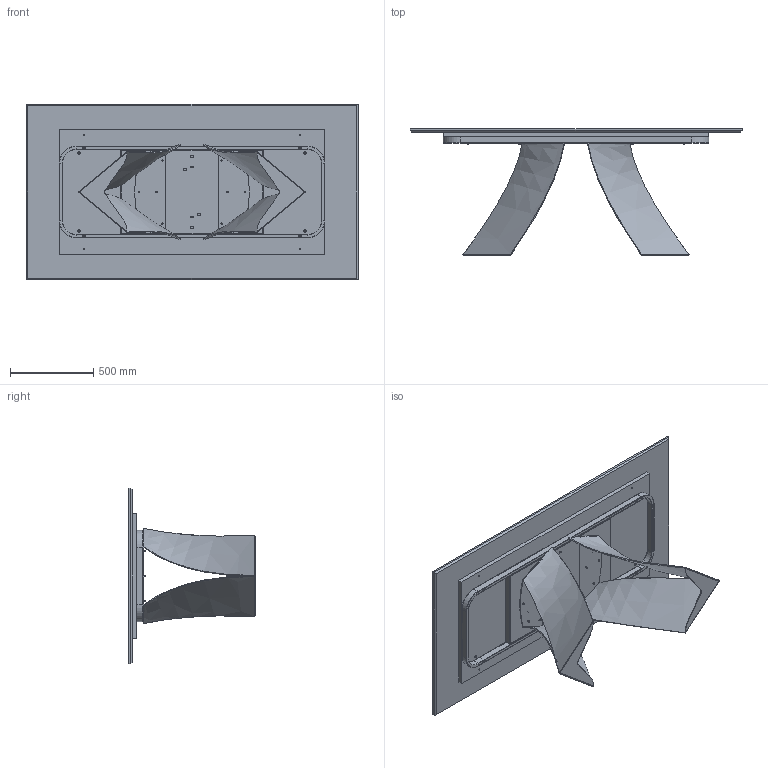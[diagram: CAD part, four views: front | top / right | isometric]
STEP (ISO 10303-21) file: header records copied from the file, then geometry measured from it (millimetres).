
FILE_DESCRIPTION (( 'STEP AP203' ), '1' );
FILE_NAME ('TW21M.STEP', '2024-08-07T12:39:03', ( '' ), ( '' ), 'SwSTEP 2.0', 'SolidWorks 2022', '' );
FILE_SCHEMA (( 'CONFIG_CONTROL_DESIGN' ));
Length unit declared in the file: millimetre
Products named in the file (11): M8xXXmm_M8x20mm; TEALIO TEMP PER MANUALE; rondella M8_8X16; M2XMXX-00-Piani rettangolari in marmo_2000x1060; TRUXXXXXX-00-NOBILITATO GR CON SUPP TRUCIOLARE SP. 25_TRU00004_1600x720; TW21M; M2X-00-Piani rettangolari marmo_2000*1060; M8xXXmm_M8x55mm; TUBOLARE TELAIO TEMP TWIST_Default<A macchina>; TTAV01_02-01-VASSOIO IRRIGIDIMENTO TELAIO UNIVERSALE; TWS000000BAS-00-TWIST BASE GREZZA
Assembly tree (40 placements, depth 3):
  TW21M
    M2XMXX-00-Piani rettangolari in marmo_2000x1060
      M2X-00-Piani rettangolari marmo_2000*1060
      TRUXXXXXX-00-NOBILITATO GR CON SUPP TRUCIOLARE SP. 25_TRU00004_1600x720
    TEALIO TEMP PER MANUALE
      TUBOLARE TELAIO TEMP TWIST_Default<A macchina>
      TTAV01_02-01-VASSOIO IRRIGIDIMENTO TELAIO UNIVERSALE
    TWS000000BAS-00-TWIST BASE GREZZA  x2
    M8xXXmm_M8x55mm  x4
    rondella M8_8X16  x16
    M8xXXmm_M8x20mm  x12
Bounding box: 2000 x 760.37 x 1060 mm (x, y, z)
Volume: 82463429.2 mm3; surface area: 11254373.7 mm2
Topology: 53 solids, 53 shells, 1326 faces, 3116 edges, 1861 vertices
Faces by surface type: plane 478, cylinder 336, torus 224, cone 222, bspline 66
Entity records: 26110 total; most frequent: CARTESIAN_POINT 9569, DIRECTION 3114, ORIENTED_EDGE 2958, EDGE_CURVE 1479, AXIS2_PLACEMENT_3D 1166, VERTEX_POINT 950, LINE 782, VECTOR 782
